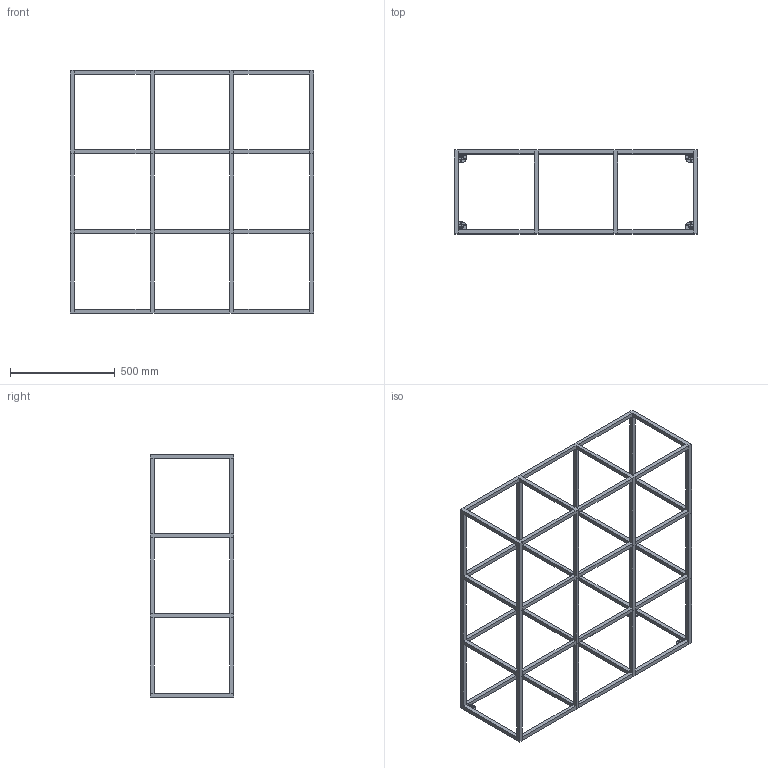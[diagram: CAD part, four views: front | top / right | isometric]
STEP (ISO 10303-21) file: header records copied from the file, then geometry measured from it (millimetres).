
FILE_DESCRIPTION(/* description */ (''),/* implementation_level */ '2;1');
FILE_NAME(/* name */ 'KINOSH~2',/* time_stamp */ '2021-07-29T19:46:02+09:00',/* author */ (''),/* organization */ (''),/* preprocessor_version */ 'ST-DEVELOPER v16.5',/* originating_system */ '',/* authorisation */ '');
FILE_SCHEMA (('AUTOMOTIVE_DESIGN'));
Length unit declared in the file: millimetre
Products named in the file (1): Document
Bounding box: 1162 x 400 x 1165.2 mm (x, y, z)
Volume: 8629403.7 mm3; surface area: 1816019 mm2
Topology: 9 solids, 9 shells, 356 faces, 792 edges, 396 vertices
Faces by surface type: plane 320, bspline 36
Entity records: 9180 total; most frequent: CARTESIAN_POINT 3462, ORIENTED_EDGE 1584, EDGE_CURVE 792, B_SPLINE_CURVE_WITH_KNOTS 684, EDGE_LOOP 412, VERTEX_POINT 396, ADVANCED_FACE 356, FACE_OUTER_BOUND 356
